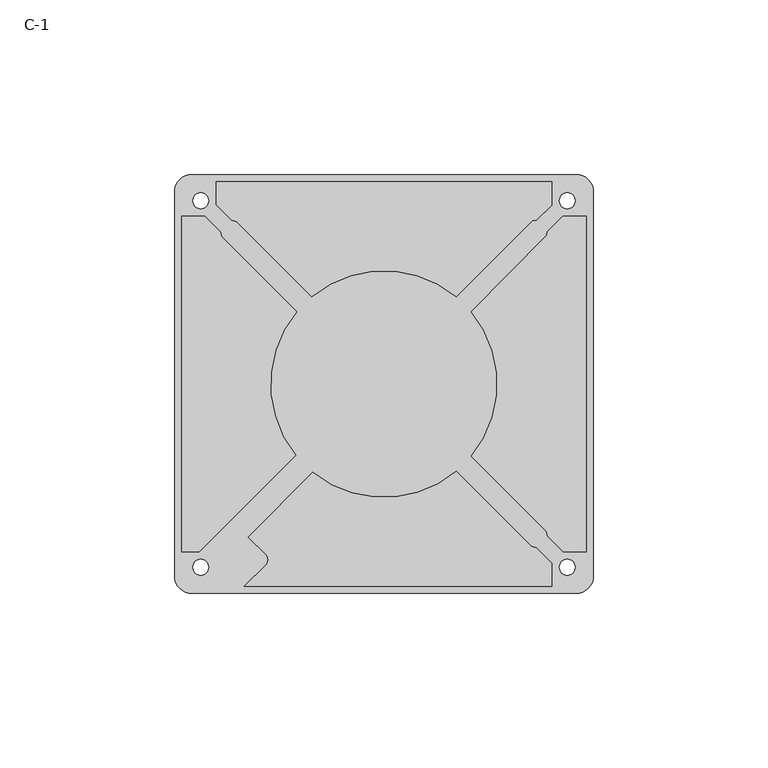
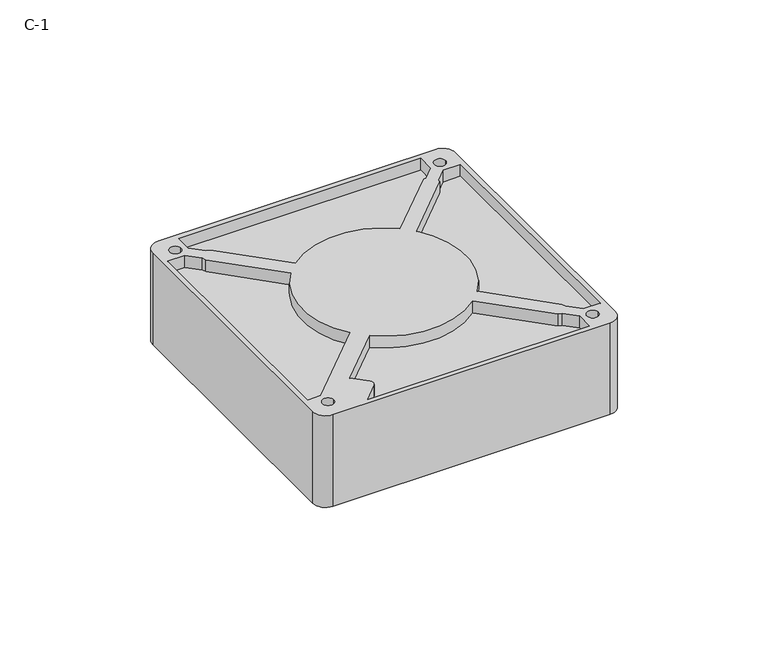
"""IFC4 building model written with IfcOpenShell, lengths in millimetres: proxy geometry, Вентилятор с подшипником : C-1."""

from ifc_helpers import new_model, si_unit, frame, origin, place, context, project, spatial, polyline, circle_curve, source, transform, mapped, element, save
from ifc_brep_helpers import plane_surface, cylinder_surface, revolved_surface, advanced_brep


def c_1_d9d45bc0(model_context):
    return source(origin(), model_context, "Body", "AdvancedBrep", [
        advanced_brep(
        [(25.0041742, 20.7615335, 33.5), (25.0041742, -20.7615335, 33.5), (46.4414533, -42.1988126, 33.5), (46.8804006, -43.5684902, 33.5), (51.3119103, -48.0, 33.5), (58.0, -48.0, 33.5), (58.0, 48.0, 33.5), (51.2241278, 48.0, 33.5), (46.8380962, 43.6139685, 33.5), (46.6958577, 42.5880057, 33.5), (42.1988126, -46.4414533, 33.5), (20.7615335, -25.0041742, 33.5), (-20.3724456, -25.3221931, 33.5), (-38.890873, -43.8406204, 33.5), (-33.7799603, -48.9515331, 33.5), (-33.7799603, -51.7799603, 33.5), (-40.0, -58.0, 33.5), (48.0, -58.0, 33.5), (48.0, -51.3119103, 33.5), (43.5684902, -46.8804006, 33.5), (-25.3221931, -20.3724456, 33.5), (-25.0041742, 20.7615335, 33.5), (-46.4414533, 42.1988126, 33.5), (-46.8804006, 43.5684902, 33.5), (-51.3119103, 48.0, 33.5), (-58.0, 48.0, 33.5), (-58.0, -48.0, 33.5), (-52.9497475, -48.0, 33.5), (-42.1988126, 46.4414533, 33.5), (-20.7615335, 25.0041742, 33.5), (20.7615335, 25.0041742, 33.5), (42.5174596, 46.7601003, 33.5), (43.6139685, 46.8380962, 33.5), (48.0, 51.2241278, 33.5), (48.0, 58.0, 33.5), (-48.0, 58.0, 33.5), (-48.0, 51.3119103, 33.5), (-43.5684902, 46.8804006, 33.5), (25.0041742, 20.7615335, 38.5), (25.0041742, -20.7615335, 38.5), (46.4414533, -42.1988126, 38.5), (46.8804006, -43.5684902, 38.5), (51.3119103, -48.0, 38.5), (58.0, -48.0, 38.5), (58.0, 48.0, 38.5), (51.2241278, 48.0, 38.5), (46.8380962, 43.6139685, 38.5), (46.6958577, 42.5880057, 38.5), (42.1988126, -46.4414533, 38.5), (20.7615335, -25.0041742, 38.5), (-20.3724456, -25.3221931, 38.5), (-38.890873, -43.8406204, 38.5), (-33.7799603, -48.9515331, 38.5), (-33.7799603, -51.7799603, 38.5), (-40.0, -58.0, 38.5), (48.0, -58.0, 38.5), (48.0, -51.3119103, 38.5), (43.5684902, -46.8804006, 38.5), (-25.3221931, -20.3724456, 38.5), (-25.0041742, 20.7615335, 38.5), (-46.4414533, 42.1988126, 38.5), (-46.8804006, 43.5684902, 38.5), (-51.3119103, 48.0, 38.5), (-58.0, 48.0, 38.5), (-58.0, -48.0, 38.5), (-52.9497475, -48.0, 38.5), (-42.1988126, 46.4414533, 38.5), (-20.7615335, 25.0041742, 38.5), (20.7615335, 25.0041742, 38.5), (42.5174596, 46.7601003, 38.5), (43.6139685, 46.8380962, 38.5), (48.0, 51.2241278, 38.5), (48.0, 58.0, 38.5), (-48.0, 58.0, 38.5), (-48.0, 51.3119103, 38.5), (-43.5684902, 46.8804006, 38.5), (-60.0, -55.0, 38.5), (-55.0, -60.0, 38.5), (55.0, -60.0, 38.5), (60.0, -55.0, 38.5), (60.0, 55.0, 38.5), (55.0, 60.0, 38.5), (-55.0, 60.0, 38.5), (-60.0, 55.0, 38.5), (54.75, 52.5, 38.5), (50.25, 52.5, 38.5), (-50.25, 52.5, 38.5), (-54.75, 52.5, 38.5), (54.75, -52.5, 38.5), (50.25, -52.5, 38.5), (-50.25, -52.5, 38.5), (-54.75, -52.5, 38.5), (-60.0, -55.0, 0.0), (-60.0, 55.0, 0.0), (-55.0, 60.0, 0.0), (55.0, 60.0, 0.0), (60.0, 55.0, 0.0), (60.0, -55.0, 0.0), (55.0, -60.0, 0.0), (-55.0, -60.0, 0.0), (50.25, 52.5, 0.0), (54.75, 52.5, 0.0), (-54.75, 52.5, 0.0), (-50.25, 52.5, 0.0), (50.25, -52.5, 0.0), (54.75, -52.5, 0.0), (-54.75, -52.5, 0.0), (-50.25, -52.5, 0.0)],
        [
            (0, 1, circle_curve(frame((0.0, 0.0, 33.5), z_axis=(0.0, 0.0, -1.0), x_axis=(1.0, 0.0, 0.0)), 32.5)),
            (1, 2),
            (2, 3),
            (3, 4),
            (4, 5),
            (5, 6),
            (6, 7),
            (7, 8),
            (8, 9),
            (9, 0),
            (10, 11),
            (11, 12, circle_curve(frame((0.0, 0.0, 33.5), z_axis=(0.0, 0.0, -1.0), x_axis=(1.0, 0.0, 0.0)), 32.5)),
            (12, 13),
            (13, 14),
            (14, 15, circle_curve(frame((-35.1941738, -50.3657467, 33.5), z_axis=(0.0, 0.0, -1.0), x_axis=(1.0, 0.0, 0.0)), 2.0)),
            (15, 16),
            (16, 17),
            (17, 18),
            (18, 19),
            (19, 10),
            (20, 21, circle_curve(frame((0.0, 0.0, 33.5), z_axis=(0.0, 0.0, -1.0), x_axis=(1.0, 0.0, 0.0)), 32.5)),
            (21, 22),
            (22, 23),
            (23, 24),
            (24, 25),
            (25, 26),
            (26, 27),
            (27, 20),
            (28, 29),
            (29, 30, circle_curve(frame((0.0, 0.0, 33.5), z_axis=(0.0, 0.0, -1.0), x_axis=(1.0, 0.0, 0.0)), 32.5)),
            (30, 31),
            (31, 32),
            (32, 33),
            (33, 34),
            (34, 35),
            (35, 36),
            (36, 37),
            (37, 28),
            (0, 38),
            (38, 39, circle_curve(frame((0.0, 0.0, 38.5), z_axis=(0.0, 0.0, -1.0), x_axis=(1.0, 0.0, 0.0)), 32.5)),
            (39, 1),
            (39, 40),
            (40, 2),
            (40, 41),
            (41, 3),
            (41, 42),
            (42, 4),
            (42, 43),
            (43, 5),
            (43, 44),
            (44, 6),
            (44, 45),
            (45, 7),
            (45, 46),
            (46, 8),
            (46, 47),
            (47, 9),
            (47, 38),
            (10, 48),
            (48, 49),
            (49, 11),
            (49, 50, circle_curve(frame((0.0, 0.0, 38.5), z_axis=(0.0, 0.0, -1.0), x_axis=(1.0, 0.0, 0.0)), 32.5)),
            (50, 12),
            (50, 51),
            (51, 13),
            (51, 52),
            (52, 14),
            (52, 53, circle_curve(frame((-35.1941738, -50.3657467, 38.5), z_axis=(0.0, 0.0, -1.0), x_axis=(1.0, 0.0, 0.0)), 2.0)),
            (53, 15),
            (53, 54),
            (54, 16),
            (54, 55),
            (55, 17),
            (55, 56),
            (56, 18),
            (56, 57),
            (57, 19),
            (57, 48),
            (20, 58),
            (58, 59, circle_curve(frame((0.0, 0.0, 38.5), z_axis=(0.0, 0.0, -1.0), x_axis=(1.0, 0.0, 0.0)), 32.5)),
            (59, 21),
            (59, 60),
            (60, 22),
            (60, 61),
            (61, 23),
            (61, 62),
            (62, 24),
            (62, 63),
            (63, 25),
            (63, 64),
            (64, 26),
            (64, 65),
            (65, 27),
            (65, 58),
            (28, 66),
            (66, 67),
            (67, 29),
            (67, 68, circle_curve(frame((0.0, 0.0, 38.5), z_axis=(0.0, 0.0, -1.0), x_axis=(1.0, 0.0, 0.0)), 32.5)),
            (68, 30),
            (68, 69),
            (69, 31),
            (69, 70),
            (70, 32),
            (70, 71),
            (71, 33),
            (71, 72),
            (72, 34),
            (72, 73),
            (73, 35),
            (73, 74),
            (74, 36),
            (74, 75),
            (75, 37),
            (75, 66),
            (76, 77, circle_curve(frame((-55.0, -55.0, 38.5), z_axis=(0.0, 0.0, 1.0), x_axis=(1.0, 0.0, 0.0)), 5.0)),
            (77, 78),
            (78, 79, circle_curve(frame((55.0, -55.0, 38.5), z_axis=(0.0, 0.0, 1.0), x_axis=(1.0, 0.0, 0.0)), 5.0)),
            (79, 80),
            (80, 81, circle_curve(frame((55.0, 55.0, 38.5), z_axis=(0.0, 0.0, 1.0), x_axis=(1.0, 0.0, 0.0)), 5.0)),
            (81, 82),
            (82, 83, circle_curve(frame((-55.0, 55.0, 38.5), z_axis=(0.0, 0.0, 1.0), x_axis=(1.0, 0.0, 0.0)), 5.0)),
            (83, 76),
            (84, 85, circle_curve(frame((52.5, 52.5, 38.5), z_axis=(0.0, 0.0, -1.0), x_axis=(1.0, 0.0, 0.0)), 2.25)),
            (85, 84, circle_curve(frame((52.5, 52.5, 38.5), z_axis=(0.0, 0.0, -1.0), x_axis=(1.0, 0.0, 0.0)), 2.25)),
            (86, 87, circle_curve(frame((-52.5, 52.5, 38.5), z_axis=(0.0, 0.0, -1.0), x_axis=(1.0, 0.0, 0.0)), 2.25)),
            (87, 86, circle_curve(frame((-52.5, 52.5, 38.5), z_axis=(0.0, 0.0, -1.0), x_axis=(1.0, 0.0, 0.0)), 2.25)),
            (88, 89, circle_curve(frame((52.5, -52.5, 38.5), z_axis=(0.0, 0.0, -1.0), x_axis=(1.0, 0.0, 0.0)), 2.25)),
            (89, 88, circle_curve(frame((52.5, -52.5, 38.5), z_axis=(0.0, 0.0, -1.0), x_axis=(1.0, 0.0, 0.0)), 2.25)),
            (90, 91, circle_curve(frame((-52.5, -52.5, 38.5), z_axis=(0.0, 0.0, -1.0), x_axis=(1.0, 0.0, 0.0)), 2.25)),
            (91, 90, circle_curve(frame((-52.5, -52.5, 38.5), z_axis=(0.0, 0.0, -1.0), x_axis=(1.0, 0.0, 0.0)), 2.25)),
            (92, 93),
            (93, 94, circle_curve(frame((-55.0, 55.0, 0.0), z_axis=(0.0, 0.0, -1.0), x_axis=(1.0, 0.0, 0.0)), 5.0)),
            (94, 95),
            (95, 96, circle_curve(frame((55.0, 55.0, 0.0), z_axis=(0.0, 0.0, -1.0), x_axis=(1.0, 0.0, 0.0)), 5.0)),
            (96, 97),
            (97, 98, circle_curve(frame((55.0, -55.0, 0.0), z_axis=(0.0, 0.0, -1.0), x_axis=(1.0, 0.0, 0.0)), 5.0)),
            (98, 99),
            (99, 92, circle_curve(frame((-55.0, -55.0, 0.0), z_axis=(0.0, 0.0, -1.0), x_axis=(1.0, 0.0, 0.0)), 5.0)),
            (100, 101, circle_curve(frame((52.5, 52.5, 0.0), z_axis=(0.0, 0.0, 1.0), x_axis=(1.0, 0.0, 0.0)), 2.25)),
            (101, 100, circle_curve(frame((52.5, 52.5, 0.0), z_axis=(0.0, 0.0, 1.0), x_axis=(1.0, 0.0, 0.0)), 2.25)),
            (102, 103, circle_curve(frame((-52.5, 52.5, 0.0), z_axis=(0.0, 0.0, 1.0), x_axis=(1.0, 0.0, 0.0)), 2.25)),
            (103, 102, circle_curve(frame((-52.5, 52.5, 0.0), z_axis=(0.0, 0.0, 1.0), x_axis=(1.0, 0.0, 0.0)), 2.25)),
            (104, 105, circle_curve(frame((52.5, -52.5, 0.0), z_axis=(0.0, 0.0, 1.0), x_axis=(1.0, 0.0, 0.0)), 2.25)),
            (105, 104, circle_curve(frame((52.5, -52.5, 0.0), z_axis=(0.0, 0.0, 1.0), x_axis=(1.0, 0.0, 0.0)), 2.25)),
            (106, 107, circle_curve(frame((-52.5, -52.5, 0.0), z_axis=(0.0, 0.0, 1.0), x_axis=(1.0, 0.0, 0.0)), 2.25)),
            (107, 106, circle_curve(frame((-52.5, -52.5, 0.0), z_axis=(0.0, 0.0, 1.0), x_axis=(1.0, 0.0, 0.0)), 2.25)),
            (76, 92),
            (99, 77),
            (98, 78),
            (97, 79),
            (96, 80),
            (95, 81),
            (94, 82),
            (93, 83),
            (84, 101),
            (100, 85),
            (86, 103),
            (102, 87),
            (88, 105),
            (104, 89),
            (90, 107),
            (106, 91),
        ],
        [
            plane_surface(frame((32.5, 0.0, 33.5), z_axis=(0.0, 0.0, 1.0), x_axis=(0.0, 1.0, 0.0))),
            cylinder_surface(frame((0.0, 0.0, 33.5), z_axis=(0.0, 0.0, -1.0), x_axis=(1.0, 0.0, 0.0)), 32.5),
            plane_surface(frame((25.0041742, -20.7615335, 38.5), z_axis=(0.7071067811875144, 0.7071067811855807, 0.0), x_axis=(0.0, 0.0, -1.0))),
            plane_surface(frame((46.4414533, -42.1988126, 38.5), z_axis=(0.9522927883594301, 0.30518591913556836, 0.0), x_axis=(0.0, 0.0, -1.0))),
            plane_surface(frame((46.8804006, -43.5684902, 38.5), z_axis=(0.7071067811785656, 0.7071067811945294, 0.0), x_axis=(0.0, 0.0, -1.0))),
            plane_surface(frame((51.3119103, -48.0, 38.5), z_axis=(0.0, 1.0, 0.0), x_axis=(0.0, 0.0, -1.0))),
            plane_surface(frame((58.0, -48.0, 38.5), z_axis=(-1.0, 0.0, 0.0), x_axis=(0.0, 0.0, -1.0))),
            plane_surface(frame((58.0, 48.0, 38.5), z_axis=(0.0, -1.0, 0.0), x_axis=(0.0, 0.0, -1.0))),
            plane_surface(frame((51.2241278, 48.0, 38.5), z_axis=(0.7071067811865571, -0.707106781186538, 0.0), x_axis=(0.0, 0.0, -1.0))),
            plane_surface(frame((46.8380962, 43.6139685, 38.5), z_axis=(0.9905259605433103, -0.13732560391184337, 0.0), x_axis=(0.0, 0.0, -1.0))),
            plane_surface(frame((46.6958577, 42.5880057, 38.5), z_axis=(0.7092934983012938, -0.7049132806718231, 0.0), x_axis=(0.0, 0.0, -1.0))),
            plane_surface(frame((42.1988126, -46.4414533, 38.5), z_axis=(-0.7071067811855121, -0.7071067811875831, 0.0), x_axis=(0.0, 0.0, -1.0))),
            cylinder_surface(frame((0.0, 0.0, 0.0), z_axis=(0.0, 0.0, -1.0), x_axis=(1.0, 0.0, 0.0)), 32.5),
            plane_surface(frame((-20.3724456, -25.3221931, 38.5), z_axis=(0.707106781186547, -0.707106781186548, 0.0), x_axis=(0.0, 0.0, -1.0))),
            plane_surface(frame((-38.890873, -43.8406204, 38.5), z_axis=(0.7071067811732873, 0.7071067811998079, 0.0), x_axis=(0.0, 0.0, -1.0))),
            cylinder_surface(frame((-35.1941738, -50.3657467, 0.0), z_axis=(0.0, 0.0, -1.0), x_axis=(1.0, 0.0, 0.0)), 2.0),
            plane_surface(frame((-33.7799603, -51.7799603, 38.5), z_axis=(0.7071067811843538, -0.7071067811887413, 0.0), x_axis=(0.0, 0.0, -1.0))),
            plane_surface(frame((-40.0, -58.0, 38.5), z_axis=(0.0, 1.0, 0.0), x_axis=(0.0, 0.0, -1.0))),
            plane_surface(frame((48.0, -58.0, 38.5), z_axis=(-1.0, 0.0, 0.0), x_axis=(0.0, 0.0, -1.0))),
            plane_surface(frame((48.0, -51.3119103, 38.5), z_axis=(-0.7071067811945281, -0.707106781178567, 0.0), x_axis=(0.0, 0.0, -1.0))),
            plane_surface(frame((43.5684902, -46.8804006, 38.5), z_axis=(-0.30518591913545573, -0.9522927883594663, 0.0), x_axis=(0.0, 0.0, -1.0))),
            plane_surface(frame((-25.0041742, 20.7615335, 38.5), z_axis=(-0.707106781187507, -0.707106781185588, 0.0), x_axis=(0.0, 0.0, -1.0))),
            plane_surface(frame((-46.4414533, 42.1988126, 38.5), z_axis=(-0.9522927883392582, -0.30518591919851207, 0.0), x_axis=(0.0, 0.0, -1.0))),
            plane_surface(frame((-46.8804006, 43.5684902, 38.5), z_axis=(-0.7071067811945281, -0.707106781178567, 0.0), x_axis=(0.0, 0.0, -1.0))),
            plane_surface(frame((-51.3119103, 48.0, 38.5), z_axis=(0.0, -1.0, 0.0), x_axis=(0.0, 0.0, -1.0))),
            plane_surface(frame((-58.0, 48.0, 38.5), z_axis=(1.0, 0.0, 0.0), x_axis=(0.0, 0.0, -1.0))),
            plane_surface(frame((-58.0, -48.0, 38.5), z_axis=(0.0, 1.0, 0.0), x_axis=(0.0, 0.0, -1.0))),
            plane_surface(frame((-52.9497475, -48.0, 38.5), z_axis=(-0.7071067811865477, 0.7071067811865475, 0.0), x_axis=(0.0, 0.0, -1.0))),
            plane_surface(frame((-42.1988126, 46.4414533, 38.5), z_axis=(0.7071067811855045, 0.7071067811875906, 0.0), x_axis=(0.0, 0.0, -1.0))),
            plane_surface(frame((20.7615335, 25.0041742, 38.5), z_axis=(-0.7071067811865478, 0.7071067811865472, 0.0), x_axis=(0.0, 0.0, -1.0))),
            plane_surface(frame((42.5174596, 46.7601003, 38.5), z_axis=(-0.0709518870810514, 0.9974797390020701, 0.0), x_axis=(0.0, 0.0, -1.0))),
            plane_surface(frame((43.6139685, 46.8380962, 38.5), z_axis=(-0.7071067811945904, 0.7071067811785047, 0.0), x_axis=(0.0, 0.0, -1.0))),
            plane_surface(frame((48.0, 51.2241278, 38.5), z_axis=(-1.0, 0.0, 0.0), x_axis=(0.0, 0.0, -1.0))),
            plane_surface(frame((48.0, 58.0, 38.5), z_axis=(0.0, -1.0, 0.0), x_axis=(0.0, 0.0, -1.0))),
            plane_surface(frame((-48.0, 58.0, 38.5), z_axis=(1.0, 0.0, 0.0), x_axis=(0.0, 0.0, -1.0))),
            plane_surface(frame((-48.0, 51.3119103, 38.5), z_axis=(0.7071067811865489, 0.7071067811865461, 0.0), x_axis=(0.0, 0.0, -1.0))),
            plane_surface(frame((-43.5684902, 46.8804006, 38.5), z_axis=(0.30518591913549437, 0.9522927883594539, 0.0), x_axis=(0.0, 0.0, -1.0))),
            plane_surface(frame((-50.0, -55.0, 38.5), z_axis=(0.0, 0.0, 1.0), x_axis=(0.0, 1.0, 0.0))),
            plane_surface(frame((-50.0, -55.0, 0.0), z_axis=(0.0, 0.0, -1.0), x_axis=(0.0, -1.0, 0.0))),
            cylinder_surface(frame((-55.0, -55.0, 0.0), z_axis=(0.0, 0.0, 1.0), x_axis=(1.0, 0.0, 0.0)), 5.0),
            plane_surface(frame((-55.0, -60.0, 38.5), z_axis=(0.0, -1.0, 0.0), x_axis=(0.0, 0.0, -1.0))),
            cylinder_surface(frame((55.0, -55.0, 0.0), z_axis=(0.0, 0.0, 1.0), x_axis=(1.0, 0.0, 0.0)), 5.0),
            plane_surface(frame((60.0, -55.0, 38.5), z_axis=(1.0, 0.0, 0.0), x_axis=(0.0, 0.0, -1.0))),
            cylinder_surface(frame((55.0, 55.0, 0.0), z_axis=(0.0, 0.0, 1.0), x_axis=(1.0, 0.0, 0.0)), 5.0),
            plane_surface(frame((55.0, 60.0, 38.5), z_axis=(0.0, 1.0, 0.0), x_axis=(0.0, 0.0, -1.0))),
            cylinder_surface(frame((-55.0, 55.0, 0.0), z_axis=(0.0, 0.0, 1.0), x_axis=(1.0, 0.0, 0.0)), 5.0),
            plane_surface(frame((-60.0, 55.0, 38.5), z_axis=(-1.0, 0.0, 0.0), x_axis=(0.0, 0.0, -1.0))),
            revolved_surface(polyline([(54.75, 52.5, 38.5), (54.75, 52.5, 0.0)]), (52.5, 52.5, 0.0), (0.0, 0.0, 1.0)),
            revolved_surface(polyline([(-50.25, 52.5, 38.5), (-50.25, 52.5, 0.0)]), (-52.5, 52.5, 0.0), (0.0, 0.0, 1.0)),
            revolved_surface(polyline([(54.75, -52.5, 38.5), (54.75, -52.5, 0.0)]), (52.5, -52.5, 0.0), (0.0, 0.0, 1.0)),
            revolved_surface(polyline([(-50.25, -52.5, 38.5), (-50.25, -52.5, 0.0)]), (-52.5, -52.5, 0.0), (0.0, 0.0, 1.0)),
        ],
        [
            (0, [[1, 2, 3, 4, 5, 6, 7, 8, 9, 10]]),
            (0, [[11, 12, 13, 14, 15, 16, 17, 18, 19, 20]]),
            (0, [[21, 22, 23, 24, 25, 26, 27, 28]]),
            (0, [[29, 30, 31, 32, 33, 34, 35, 36, 37, 38]]),
            (1, [[-1, 39, 40, 41]]),
            (2, [[-2, -41, 42, 43]]),
            (3, [[-3, -43, 44, 45]]),
            (4, [[-4, -45, 46, 47]]),
            (5, [[-5, -47, 48, 49]]),
            (6, [[-6, -49, 50, 51]]),
            (7, [[-7, -51, 52, 53]]),
            (8, [[-8, -53, 54, 55]]),
            (9, [[-9, -55, 56, 57]]),
            (10, [[-10, -57, 58, -39]]),
            (11, [[-11, 59, 60, 61]]),
            (12, [[-12, -61, 62, 63]]),
            (13, [[-13, -63, 64, 65]]),
            (14, [[-14, -65, 66, 67]]),
            (15, [[-15, -67, 68, 69]]),
            (16, [[-16, -69, 70, 71]]),
            (17, [[-17, -71, 72, 73]]),
            (18, [[-18, -73, 74, 75]]),
            (19, [[-19, -75, 76, 77]]),
            (20, [[-20, -77, 78, -59]]),
            (12, [[-21, 79, 80, 81]]),
            (21, [[-22, -81, 82, 83]]),
            (22, [[-23, -83, 84, 85]]),
            (23, [[-24, -85, 86, 87]]),
            (24, [[-25, -87, 88, 89]]),
            (25, [[-26, -89, 90, 91]]),
            (26, [[-27, -91, 92, 93]]),
            (27, [[-28, -93, 94, -79]]),
            (28, [[-29, 95, 96, 97]]),
            (12, [[-30, -97, 98, 99]]),
            (29, [[-31, -99, 100, 101]]),
            (30, [[-32, -101, 102, 103]]),
            (31, [[-33, -103, 104, 105]]),
            (32, [[-34, -105, 106, 107]]),
            (33, [[-35, -107, 108, 109]]),
            (34, [[-36, -109, 110, 111]]),
            (35, [[-37, -111, 112, 113]]),
            (36, [[-38, -113, 114, -95]]),
            (37, [[115, 116, 117, 118, 119, 120, 121, 122], [-40, -58, -56, -54, -52, -50, -48, -46, -44, -42], [-60, -78, -76, -74, -72, -70, -68, -66, -64, -62], [-80, -94, -92, -90, -88, -86, -84, -82], [-96, -114, -112, -110, -108, -106, -104, -102, -100, -98], [123, 124], [125, 126], [127, 128], [129, 130]]),
            (38, [[131, 132, 133, 134, 135, 136, 137, 138], [139, 140], [141, 142], [143, 144], [145, 146]]),
            (39, [[-115, 147, -138, 148]]),
            (40, [[-116, -148, -137, 149]]),
            (41, [[-117, -149, -136, 150]]),
            (42, [[-118, -150, -135, 151]]),
            (43, [[-119, -151, -134, 152]]),
            (44, [[-120, -152, -133, 153]]),
            (45, [[-121, -153, -132, 154]]),
            (46, [[-122, -154, -131, -147]]),
            (47, [[155, -139, 156, -123]]),
            (47, [[-155, -124, -156, -140]]),
            (48, [[157, -141, 158, -125]]),
            (48, [[-157, -126, -158, -142]]),
            (49, [[159, -143, 160, -127]]),
            (49, [[-159, -128, -160, -144]]),
            (50, [[161, -145, 162, -129]]),
            (50, [[-161, -130, -162, -146]]),
        ],
    ),
    ])


if __name__ == "__main__":
    model = new_model("IFC4")
    model_context = context("Model", 3, world=origin())
    ifc_project = project(units=[si_unit("LENGTHUNIT", "METRE", prefix="MILLI")], contexts=[model_context])
    site = spatial("IfcSite", under=ifc_project)
    building = spatial("IfcBuilding", under=site)
    placement = place(None, origin())
    c_1_shape = c_1_d9d45bc0(model_context)
    element("IfcBuildingElementProxy", 1, Name="Вентилятор с подшипником : C-1", ObjectType="Вентилятор с подшипником : C-1", at=placement, inside=building, context=model_context, shape_type="MappedRepresentation", body=[
        mapped(c_1_shape, transform((0.0, 0.0, 0.0), x_axis=(1.0, 0.0, 0.0), y_axis=(0.0, 1.0, 0.0), z_axis=(0.0, 0.0, 1.0))),
    ])
    save(model, "model.ifc")
